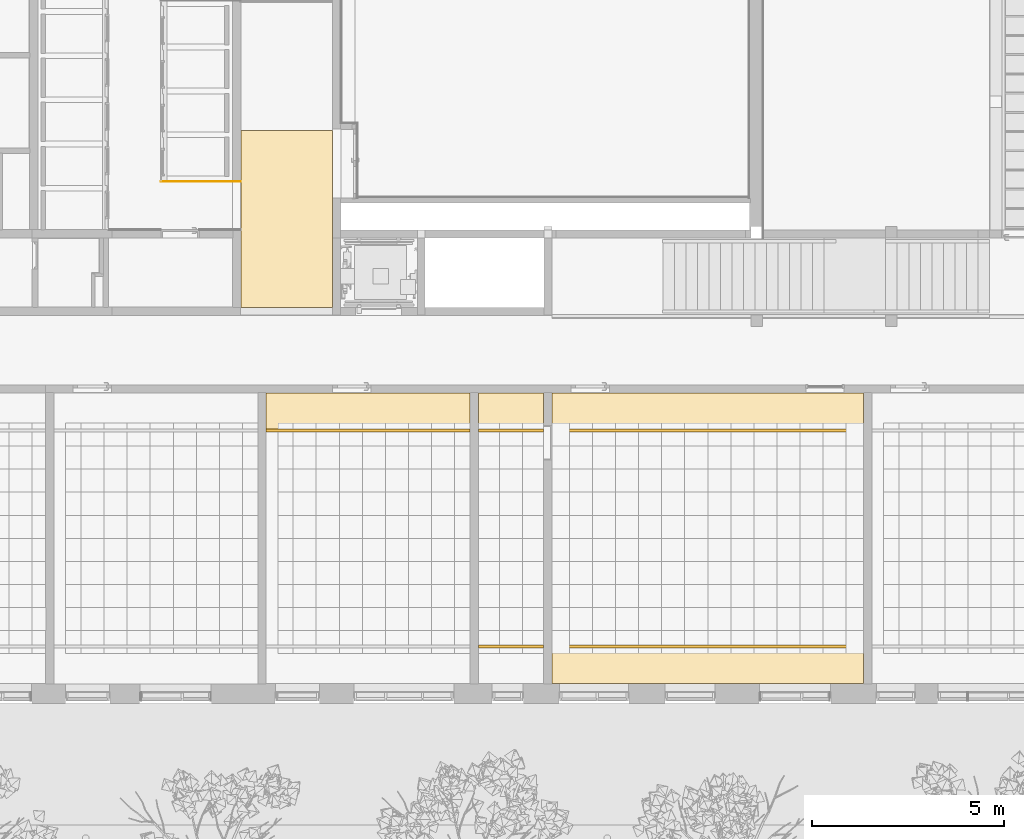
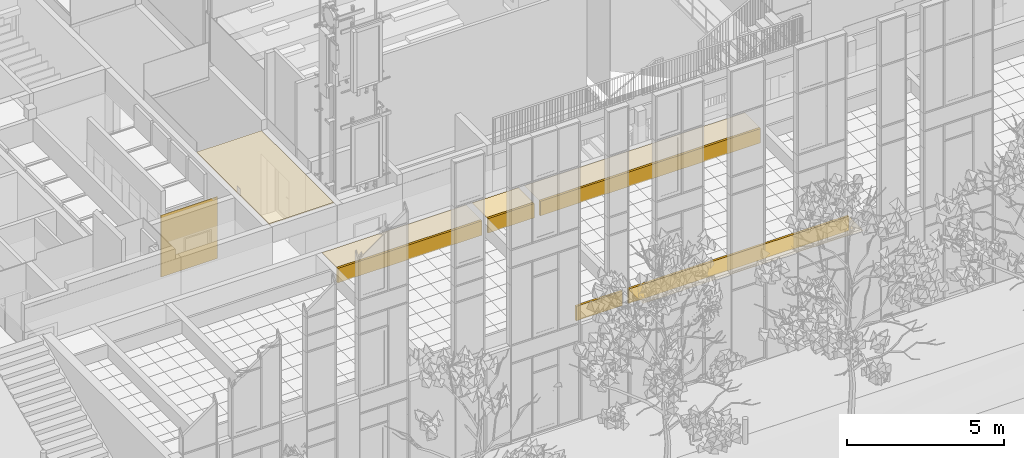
# One storey, part 168 of 246: 11 coverings.
"""IFC2X3 building model written with IfcOpenShell, lengths in millimetres."""

from ifc_helpers import new_model, entity, si_unit, converted_unit, derived_unit, money_unit, direction, frame, origin_with_axes, place, context, subcontext, project, spatial, faceted_brep, material, material_list, type_object, element, save


model = new_model("IFC2X3")

# Units and contexts
model_context = context("Model", 3, precision=0.01, world=origin_with_axes(), true_north=direction((0.0, 1.0)))
body_context = subcontext(model_context, "Body", "Model", "MODEL_VIEW")
ifc_project = project(units=[si_unit("LENGTHUNIT", "METRE", prefix="MILLI"), si_unit("AREAUNIT", "SQUARE_METRE"), si_unit("VOLUMEUNIT", "CUBIC_METRE"), converted_unit("PLANEANGLEUNIT", "DEGREE", entity("IfcPlaneAngleMeasure", 0.0174532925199), si_unit("PLANEANGLEUNIT", "RADIAN"), dimensions=[0, 0, 0, 0, 0, 0, 0]), si_unit("SOLIDANGLEUNIT", "STERADIAN"), money_unit("EUR"), converted_unit("TIMEUNIT", "Year", entity("IfcTimeMeasure", 31556926.0), si_unit("TIMEUNIT", "SECOND"), dimensions=[0, 0, 1, 0, 0, 0, 0]), si_unit("MASSUNIT", "GRAM", prefix="KILO"), si_unit("THERMODYNAMICTEMPERATUREUNIT", "DEGREE_CELSIUS"), si_unit("LUMINOUSINTENSITYUNIT", "LUMEN"), si_unit("ENERGYUNIT", "JOULE", prefix="MEGA"), derived_unit("THERMALCONDUCTANCEUNIT", [(si_unit("POWERUNIT", "WATT"), 1), (si_unit("LENGTHUNIT", "METRE"), -1), (si_unit("THERMODYNAMICTEMPERATUREUNIT", "KELVIN"), -1)]), derived_unit("SPECIFICHEATCAPACITYUNIT", [(si_unit("ENERGYUNIT", "JOULE"), 1), (si_unit("MASSUNIT", "GRAM", prefix="KILO"), -1), (si_unit("THERMODYNAMICTEMPERATUREUNIT", "KELVIN"), -1)]), derived_unit("MASSDENSITYUNIT", [(si_unit("MASSUNIT", "GRAM", prefix="KILO"), 1), (si_unit("VOLUMEUNIT", "CUBIC_METRE"), -1)])], contexts=[model_context])

# Site, building, storey
site_placement = place(None, origin_with_axes())
site = spatial("IfcSite", under=ifc_project, at=site_placement, Name="L.Koidula tn 11b", CompositionType="ELEMENT")
building_placement = place(site_placement, origin_with_axes())
building = spatial("IfcBuilding", under=site, at=building_placement, Name="Rakvere Riigigümnaasium", CompositionType="ELEMENT")
storey_placement = place(building_placement, origin_with_axes())
storey = spatial("IfcBuildingStorey", under=building, at=storey_placement, Name="1.korrus 0,00", CompositionType="ELEMENT", Elevation=0.0)

# Coverings
ifc_material_1 = material(Name="mineraalvill+karkass")
ifc_material_2 = material(Name="SKR-02_Kipsplaat")
ifc_material_list = material_list([ifc_material_1, ifc_material_2])
covering_type_1 = type_object("IfcCoveringType", Name="SA-LV-kips 79", PredefinedType="CEILING")
covering_1_placement = place(storey_placement, frame((50569.9830772, 12135.4543717, 2762.5), z_axis=(0.0, 0.0, 1.0), x_axis=(-1.0, 0.0, 0.0)))
element("IfcCovering", 1, at=covering_1_placement, inside=storey, type_object=covering_type_1, material=ifc_material_list, Name="L-04 vert", PredefinedType="CEILING", context=body_context, shape_type="Brep", body=[
    faceted_brep([(5299.98308002, 12.5, 562.5), (5299.98308002, 78.5, 562.5), (0.0, 78.5, 562.5), (0.0, 12.5, 562.5), (5299.98308002, 12.5, 0.0), (5299.98308002, 78.5, 0.0), (0.0, 78.5, 0.0), (0.0, 12.5, 0.0)], [[[0, 1, 2, 3]], [[0, 4, 5, 1]], [[1, 5, 6, 2]], [[3, 2, 6, 7]], [[4, 0, 3, 7]], [[5, 4, 7, 6]]]),
    faceted_brep([(5299.98308002, 0.0, 562.5), (5299.98308002, 12.5, 562.5), (0.0, 12.5, 562.5), (0.0, 0.0, 562.5), (5299.98308002, 0.0, 0.0), (5299.98308002, 12.5, 0.0), (0.0, 12.5, 0.0), (0.0, 0.0, 0.0)], [[[0, 1, 2, 3]], [[0, 4, 5, 1]], [[1, 5, 6, 2]], [[3, 2, 6, 7]], [[4, 0, 3, 7]], [[5, 4, 7, 6]]]),
])
for number, where, z_axis, x_axis, name in (
    (2, (52709.9766386, 6435.45437174, 2762.5), (0.0, 0.0, 1.0), (1.0, 0.0, 0.0), "L-04 vert"),
    (3, (60810.0162917, 12135.4543717, 2762.5), (0.0, 0.0, 1.0), (-1.0, 0.0, 0.0), "L-04 vert"),
):
    element("IfcCovering", number, at=place(storey_placement, frame(where, z_axis=z_axis, x_axis=x_axis)), inside=storey, type_object=covering_type_1, material=ifc_material_list, Name=name, PredefinedType="CEILING", context=body_context, shape_type="Brep", body=[
        faceted_brep([(8100.03965312, 12.5, 562.5), (8100.03965312, 78.5, 562.5), (0.0, 78.5, 562.5), (0.0, 12.5, 562.5), (8100.03965312, 12.5, 0.0), (8100.03965312, 78.5, 0.0), (0.0, 78.5, 0.0), (0.0, 12.5, 0.0)], [[[0, 1, 2, 3]], [[0, 4, 5, 1]], [[1, 5, 6, 2]], [[3, 2, 6, 7]], [[4, 0, 3, 7]], [[5, 4, 7, 6]]]),
        faceted_brep([(8100.03965312, 0.0, 562.5), (8100.03965312, 12.5, 562.5), (0.0, 12.5, 562.5), (0.0, 0.0, 562.5), (8100.03965312, 0.0, 0.0), (8100.03965312, 12.5, 0.0), (0.0, 12.5, 0.0), (0.0, 0.0, 0.0)], [[[0, 1, 2, 3]], [[0, 4, 5, 1]], [[1, 5, 6, 2]], [[3, 2, 6, 7]], [[4, 0, 3, 7]], [[5, 4, 7, 6]]]),
    ])
covering_2_placement = place(storey_placement, frame((50789.9830772, 6435.45437174, 2762.5), z_axis=(0.0, 0.0, 1.0), x_axis=(1.0, 0.0, 0.0)))
element("IfcCovering", 4, at=covering_2_placement, inside=storey, type_object=covering_type_1, material=ifc_material_list, Name="L-04 vert", PredefinedType="CEILING", context=body_context, shape_type="Brep", body=[
    faceted_brep([(1699.99356132, 12.5, 562.5), (1699.99356132, 78.5, 562.5), (0.0, 78.5, 562.5), (0.0, 12.5, 562.5), (1699.99356132, 12.5, 0.0), (1699.99356132, 78.5, 0.0), (0.0, 78.5, 0.0), (0.0, 12.5, 0.0)], [[[0, 1, 2, 3]], [[0, 4, 5, 1]], [[1, 5, 6, 2]], [[3, 2, 6, 7]], [[4, 0, 3, 7]], [[5, 4, 7, 6]]]),
    faceted_brep([(1699.99356132, 0.0, 562.5), (1699.99356132, 12.5, 562.5), (0.0, 12.5, 562.5), (0.0, 0.0, 562.5), (1699.99356132, 0.0, 0.0), (1699.99356132, 12.5, 0.0), (0.0, 12.5, 0.0), (0.0, 0.0, 0.0)], [[[0, 1, 2, 3]], [[0, 4, 5, 1]], [[1, 5, 6, 2]], [[3, 2, 6, 7]], [[4, 0, 3, 7]], [[5, 4, 7, 6]]]),
])
covering_3_placement = place(storey_placement, frame((52489.9766386, 12135.4543717, 2762.5), z_axis=(0.0, 0.0, 1.0), x_axis=(-1.0, 0.0, 0.0)))
element("IfcCovering", 5, at=covering_3_placement, inside=storey, type_object=covering_type_1, material=ifc_material_list, Name="L-04 vert", PredefinedType="CEILING", context=body_context, shape_type="Brep", body=[
    faceted_brep([(1700.29356132, 12.5, 562.5), (1700.29356132, 78.5, 562.5), (0.0, 78.5, 562.5), (0.0, 12.5, 562.5), (1700.29356132, 12.5, 0.0), (1700.29356132, 78.5, 0.0), (0.0, 78.5, 0.0), (0.0, 12.5, 0.0)], [[[0, 1, 2, 3]], [[0, 4, 5, 1]], [[1, 5, 6, 2]], [[3, 2, 6, 7]], [[4, 0, 3, 7]], [[5, 4, 7, 6]]]),
    faceted_brep([(1700.29356132, 0.0, 562.5), (1700.29356132, 12.5, 562.5), (0.0, 12.5, 562.5), (0.0, 0.0, 562.5), (1700.29356132, 0.0, 0.0), (1700.29356132, 12.5, 0.0), (0.0, 12.5, 0.0), (0.0, 0.0, 0.0)], [[[0, 1, 2, 3]], [[0, 4, 5, 1]], [[1, 5, 6, 2]], [[3, 2, 6, 7]], [[4, 0, 3, 7]], [[5, 4, 7, 6]]]),
])
ifc_material_3 = material(Name="MDF")
covering_type_2 = type_object("IfcCoveringType", Name="MDF 20", PredefinedType="CLADDING")
covering_4_placement = place(storey_placement, frame((44609.9999911, 18585.4555123, 0.0), z_axis=(0.0, 0.0, 1.0), x_axis=(-1.0, 0.0, 0.0)))
element("IfcCovering", 6, at=covering_4_placement, inside=storey, type_object=covering_type_2, material=ifc_material_3, Name="S-07", PredefinedType="CLADDING", context=body_context, shape_type="Brep", body=[
    faceted_brep([(0.0, 0.0, 2400.0), (2090.00002852, 0.0, 2400.0), (2090.00002852, 20.0, 2400.0), (0.0, 20.0, 2400.0), (0.0, 0.0, 0.0), (2090.00002852, 0.0, 0.0), (2090.00002852, 20.0, 0.0), (0.0, 20.0, 0.0)], [[[0, 1, 2, 3]], [[4, 5, 1, 0]], [[2, 1, 5, 6]], [[3, 2, 6, 7]], [[4, 0, 3, 7]], [[7, 6, 5, 4]]]),
])
ifc_material_4 = material(Name="Krohv akustiline")
covering_type_3 = type_object("IfcCoveringType", Name="Krohv akustiline 42", PredefinedType="CEILING")
covering_5_placement = place(storey_placement, frame((44609.9999976, 15300.4785302, 3325.0), z_axis=(0.0, 0.0, 1.0), x_axis=(1.0, 0.0, 0.0)))
element("IfcCovering", 7, at=covering_5_placement, inside=storey, type_object=covering_type_3, material=ifc_material_4, Name="L-06", PredefinedType="CEILING", context=body_context, shape_type="Brep", body=[
    faceted_brep([(0.0, 0.0, 0.0), (0.0, 0.0, -42.0), (2379.99999591, 0.0, -42.0), (2379.99999591, 0.0, 0.0), (0.0, 4599.74049115, 0.0), (0.0, 4599.74049115, -42.0), (2379.99999591, 4599.74049115, -42.0), (2379.99999591, 4599.74049115, 0.0)], [[[0, 1, 2, 3]], [[4, 5, 1, 0]], [[2, 1, 5, 6]], [[3, 2, 6, 7]], [[4, 0, 3, 7]], [[7, 6, 5, 4]]]),
])
ifc_material_5 = material(Name="Salto-siseviimistlus-ripplagi")
covering_type_4 = type_object("IfcCoveringType", Name="Salto-siseviimistlus-ripplagi 1", PredefinedType="CLADDING")
covering_6_placement = place(storey_placement, frame((45269.9999972, 12135.4543717, 3325.0), z_axis=(0.0, 0.0, 1.0), x_axis=(1.0, 0.0, 0.0)))
element("IfcCovering", 8, at=covering_6_placement, inside=storey, type_object=covering_type_4, material=ifc_material_5, Name="L-09", PredefinedType="CLADDING", context=body_context, shape_type="Brep", body=[
    faceted_brep([(0.0, 0.0, 0.0), (0.0, 0.0, -1.0), (5299.98308002, 0.0, -1.0), (5299.98308002, 0.0, 0.0), (0.0, 934.988773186, 0.0), (0.0, 934.988773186, -1.0), (5299.98308002, 934.988773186, -1.0), (5299.98308002, 934.988773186, 0.0)], [[[0, 1, 2, 3]], [[4, 5, 1, 0]], [[2, 1, 5, 6]], [[3, 2, 6, 7]], [[4, 0, 3, 7]], [[7, 6, 5, 4]]]),
])
covering_7_placement = place(storey_placement, frame((50789.6830772, 12135.4543717, 3325.0), z_axis=(0.0, 0.0, 1.0), x_axis=(1.0, 0.0, 0.0)))
element("IfcCovering", 9, at=covering_7_placement, inside=storey, type_object=covering_type_4, material=ifc_material_5, Name="L-09", PredefinedType="CLADDING", context=body_context, shape_type="Brep", body=[
    faceted_brep([(0.0, 0.0, 0.0), (0.0, 0.0, -1.0), (1700.29356132, 0.0, -1.0), (1700.29356132, 0.0, 0.0), (0.0, 934.990710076, 0.0), (0.0, 934.990710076, -1.0), (1700.29356132, 934.990710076, -1.0), (1700.29356132, 934.990710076, 0.0)], [[[0, 1, 2, 3]], [[4, 5, 1, 0]], [[2, 1, 5, 6]], [[3, 2, 6, 7]], [[4, 0, 3, 7]], [[7, 6, 5, 4]]]),
])
covering_8_placement = place(storey_placement, frame((52709.9766386, 5510.45553887, 3325.0), z_axis=(0.0, 0.0, 1.0), x_axis=(1.0, 0.0, 0.0)))
element("IfcCovering", 10, at=covering_8_placement, inside=storey, type_object=covering_type_4, material=ifc_material_5, Name="L-09", PredefinedType="CLADDING", context=body_context, shape_type="Brep", body=[
    faceted_brep([(0.0, 0.0, 0.0), (0.0, 0.0, -1.0), (8100.03965312, 0.0, -1.0), (8100.03965312, 0.0, 0.0), (0.0, 924.998832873, 0.0), (0.0, 924.998832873, -1.0), (8100.03965312, 924.998832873, -1.0), (8100.03965312, 924.998832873, 0.0)], [[[0, 1, 2, 3]], [[4, 5, 1, 0]], [[2, 1, 5, 6]], [[3, 2, 6, 7]], [[4, 0, 3, 7]], [[7, 6, 5, 4]]]),
])
covering_9_placement = place(storey_placement, frame((52709.9766386, 12135.4543717, 3325.0), z_axis=(0.0, 0.0, 1.0), x_axis=(1.0, 0.0, 0.0)))
element("IfcCovering", 11, at=covering_9_placement, inside=storey, type_object=covering_type_4, material=ifc_material_5, Name="L-09", PredefinedType="CLADDING", context=body_context, shape_type="Brep", body=[
    faceted_brep([(0.0, 0.0, 0.0), (0.0, 0.0, -1.0), (8100.03965312, 0.0, -1.0), (8100.03965312, 0.0, 0.0), (0.0, 934.990769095, 0.0), (0.0, 934.990769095, -1.0), (8100.03965312, 934.990769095, -1.0), (8100.03965312, 934.990769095, 0.0)], [[[0, 1, 2, 3]], [[4, 5, 1, 0]], [[2, 1, 5, 6]], [[3, 2, 6, 7]], [[4, 0, 3, 7]], [[7, 6, 5, 4]]]),
])

save(model, "model.ifc")
